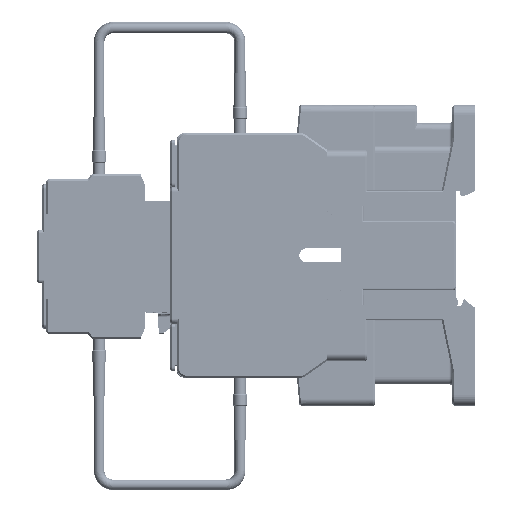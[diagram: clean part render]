
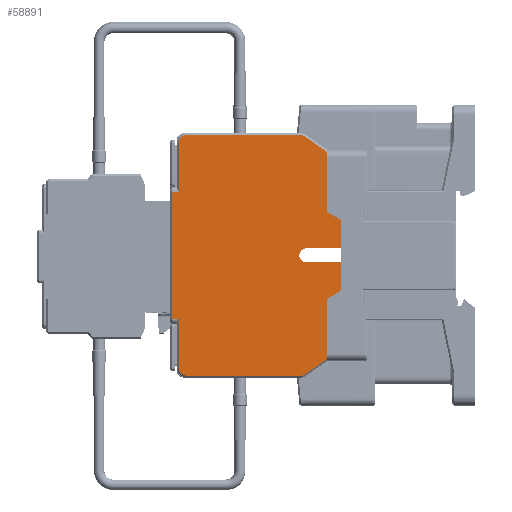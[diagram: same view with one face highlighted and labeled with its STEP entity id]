
A CAD part, left-side view. The second image highlights one B-rep face of the part: STEP entity #58891.
In plain terms, the highlighted planar face has unit normal (-1, 0, 0).
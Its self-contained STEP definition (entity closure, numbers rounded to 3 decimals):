
#402=DIRECTION('',(0.,1.,0.));
#403=VECTOR('',#402,10.);
#404=CARTESIAN_POINT('',(-28.,-26.6,-2.));
#405=LINE('',#404,#403);
#802=DIRECTION('',(0.,0.,1.));
#803=VECTOR('',#802,16.778);
#804=CARTESIAN_POINT('',(-28.,-22.6,-29.69));
#805=LINE('',#804,#803);
#816=DIRECTION('',(0.,0.,1.));
#817=VECTOR('',#816,16.778);
#818=CARTESIAN_POINT('',(-28.,-22.6,12.912));
#819=LINE('',#818,#817);
#1183=CARTESIAN_POINT('',(-28.,-23.4,-12.912));
#1184=DIRECTION('',(1.,0.,0.));
#1185=DIRECTION('',(0.,1.,0.));
#1186=AXIS2_PLACEMENT_3D('',#1183,#1184,#1185);
#1199=DIRECTION('',(0.,0.,1.));
#1200=VECTOR('',#1199,36.4);
#1201=CARTESIAN_POINT('',(-28.,22.1,-18.2));
#1202=LINE('',#1201,#1200);
#1206=DIRECTION('',(0.,0.,1.));
#1207=VECTOR('',#1206,13.902);
#1208=CARTESIAN_POINT('',(-28.,20.1,18.2));
#1209=LINE('',#1208,#1207);
#1213=CARTESIAN_POINT('',(-28.,17.6,32.1));
#1214=DIRECTION('',(1.,0.,0.));
#1215=DIRECTION('',(0.,1.,0.001));
#1216=AXIS2_PLACEMENT_3D('',#1213,#1214,#1215);
#1221=DIRECTION('',(0.,-1.,0.));
#1222=VECTOR('',#1221,32.714);
#1223=CARTESIAN_POINT('',(-28.,17.6,34.6));
#1224=LINE('',#1223,#1222);
#1228=CARTESIAN_POINT('',(-28.,-15.114,33.1));
#1229=DIRECTION('',(1.,0.,0.));
#1230=DIRECTION('',(0.,0.,1.));
#1231=AXIS2_PLACEMENT_3D('',#1228,#1229,#1230);
#1236=DIRECTION('',(0.,-0.819,-0.574));
#1237=VECTOR('',#1236,8.088);
#1238=CARTESIAN_POINT('',(-28.,-15.975,34.329));
#1239=LINE('',#1238,#1237);
#1243=DIRECTION('',(0.,0.866,0.5));
#1244=VECTOR('',#1243,3.465);
#1245=CARTESIAN_POINT('',(-28.,-26.,10.486));
#1246=LINE('',#1245,#1244);
#1250=CARTESIAN_POINT('',(-28.,-25.4,9.447));
#1251=DIRECTION('',(-1.,0.,0.));
#1252=DIRECTION('',(0.,-1.,0.));
#1253=AXIS2_PLACEMENT_3D('',#1250,#1251,#1252);
#1258=DIRECTION('',(0.,0.,1.));
#1259=VECTOR('',#1258,7.447);
#1260=CARTESIAN_POINT('',(-28.,-26.6,2.));
#1261=LINE('',#1260,#1259);
#1265=CARTESIAN_POINT('',(-28.,-16.6,0.));
#1266=DIRECTION('',(-1.,0.,0.));
#1267=DIRECTION('',(0.,0.,1.));
#1268=AXIS2_PLACEMENT_3D('',#1265,#1266,#1267);
#1273=DIRECTION('',(0.,0.,1.));
#1274=VECTOR('',#1273,7.447);
#1275=CARTESIAN_POINT('',(-28.,-26.6,-9.447));
#1276=LINE('',#1275,#1274);
#1280=CARTESIAN_POINT('',(-28.,-25.4,-9.447));
#1281=DIRECTION('',(-1.,0.,0.));
#1282=DIRECTION('',(0.,-0.5,-0.866));
#1283=AXIS2_PLACEMENT_3D('',#1280,#1281,#1282);
#1288=DIRECTION('',(0.,-0.866,0.5));
#1289=VECTOR('',#1288,3.465);
#1290=CARTESIAN_POINT('',(-28.,-23.,-12.219));
#1291=LINE('',#1290,#1289);
#1295=DIRECTION('',(0.,0.819,-0.574));
#1296=VECTOR('',#1295,8.088);
#1297=CARTESIAN_POINT('',(-28.,-22.6,-29.69));
#1298=LINE('',#1297,#1296);
#1302=CARTESIAN_POINT('',(-28.,-15.114,-33.1));
#1303=DIRECTION('',(1.,0.,0.));
#1304=DIRECTION('',(0.,-0.574,-0.819));
#1305=AXIS2_PLACEMENT_3D('',#1302,#1303,#1304);
#1310=DIRECTION('',(0.,1.,0.));
#1311=VECTOR('',#1310,32.714);
#1312=CARTESIAN_POINT('',(-28.,-15.114,-34.6));
#1313=LINE('',#1312,#1311);
#1317=CARTESIAN_POINT('',(-28.,17.6,-32.1));
#1318=DIRECTION('',(1.,0.,0.));
#1319=DIRECTION('',(0.,0.,-1.));
#1320=AXIS2_PLACEMENT_3D('',#1317,#1318,#1319);
#1325=DIRECTION('',(0.,0.,1.));
#1326=VECTOR('',#1325,13.902);
#1327=CARTESIAN_POINT('',(-28.,20.1,
-32.102));
#1328=LINE('',#1327,#1326);
#25881=DIRECTION('',(0.,-1.,0.));
#25882=VECTOR('',#25881,10.);
#25883=CARTESIAN_POINT('',(-28.,-16.6,2.));
#25884=LINE('',#25883,#25882);
#29059=CARTESIAN_POINT('',(-28.,20.1,
32.102));
#29069=CARTESIAN_POINT('',(-28.,20.1,18.2));
#29112=DIRECTION('',(0.,1.,0.));
#29113=VECTOR('',#29112,2.);
#29114=CARTESIAN_POINT('',(-28.,20.1,18.2));
#29115=LINE('',#29114,#29113);
#29176=DIRECTION('',(0.,-1.,0.));
#29177=VECTOR('',#29176,2.);
#29178=CARTESIAN_POINT('',(-28.,22.1,-18.2));
#29179=LINE('',#29178,#29177);
#29220=CARTESIAN_POINT('',(-28.,20.1,-18.2));
#43455=CARTESIAN_POINT('',(-28.,-23.4,12.912));
#43456=DIRECTION('',(1.,0.,0.));
#43457=DIRECTION('',(0.,0.5,-0.866));
#43458=AXIS2_PLACEMENT_3D('',#43455,#43456,#43457);
#50422=CARTESIAN_POINT('',(-28.,-16.6,2.));
#50423=CARTESIAN_POINT('',(-28.,-16.6,-2.));
#50424=VERTEX_POINT('',#50422);
#50425=VERTEX_POINT('',#50423);
#50438=CARTESIAN_POINT('',(-28.,-26.6,2.));
#50440=VERTEX_POINT('',#50438);
#50442=CARTESIAN_POINT('',(-28.,-26.6,-2.));
#50444=VERTEX_POINT('',#50442);
#53923=VERTEX_POINT('',#29220);
#53924=VERTEX_POINT('',#29069);
#54825=CARTESIAN_POINT('',(-28.,-22.6,29.69));
#54827=VERTEX_POINT('',#54825);
#54828=CARTESIAN_POINT('',(-28.,-15.975,34.329));
#54829=VERTEX_POINT('',#54828);
#54834=CARTESIAN_POINT('',(-28.,-15.114,34.6));
#54835=VERTEX_POINT('',#54834);
#54838=CARTESIAN_POINT('',(-28.,17.6,
34.6));
#54839=VERTEX_POINT('',#54838);
#54840=CARTESIAN_POINT('',(-28.,-15.114,-34.6));
#54841=CARTESIAN_POINT('',(-28.,17.6,
-34.6));
#54842=VERTEX_POINT('',#54840);
#54843=VERTEX_POINT('',#54841);
#54850=CARTESIAN_POINT('',(-28.,-15.975,-34.329));
#54851=VERTEX_POINT('',#54850);
#54852=CARTESIAN_POINT('',(-28.,-22.6,-29.69));
#54854=VERTEX_POINT('',#54852);
#54864=VERTEX_POINT('',#29059);
#54867=CARTESIAN_POINT('',(-28.,20.1,
-32.102));
#54869=VERTEX_POINT('',#54867);
#56698=CARTESIAN_POINT('',(-28.,-26.6,9.447));
#56699=VERTEX_POINT('',#56698);
#56700=CARTESIAN_POINT('',(-28.,-26.,10.486));
#56701=VERTEX_POINT('',#56700);
#56706=CARTESIAN_POINT('',(-28.,-26.,-10.486));
#56707=VERTEX_POINT('',#56706);
#56708=CARTESIAN_POINT('',(-28.,-26.6,-9.447));
#56709=VERTEX_POINT('',#56708);
#56710=CARTESIAN_POINT('',(-28.,-22.6,-12.912));
#56712=VERTEX_POINT('',#56710);
#56714=CARTESIAN_POINT('',(-28.,-23.,-12.219));
#56716=VERTEX_POINT('',#56714);
#56719=CARTESIAN_POINT('',(-28.,-22.6,12.912));
#56721=VERTEX_POINT('',#56719);
#56723=CARTESIAN_POINT('',(-28.,-23.,12.219));
#56725=VERTEX_POINT('',#56723);
#57092=CARTESIAN_POINT('',(-28.,22.1,18.2));
#57094=VERTEX_POINT('',#57092);
#57122=CARTESIAN_POINT('',(-28.,22.1,-18.2));
#57123=VERTEX_POINT('',#57122);
#58836=CARTESIAN_POINT('',(-28.,-22.6,-43.25));
#58837=DIRECTION('',(-1.,0.,0.));
#58838=DIRECTION('',(0.,0.,1.));
#58839=AXIS2_PLACEMENT_3D('',#58836,#58837,#58838);
#58840=PLANE('',#58839);
#58842=ORIENTED_EDGE('',*,*,#58841,.T.);
#58844=ORIENTED_EDGE('',*,*,#58843,.F.);
#58846=ORIENTED_EDGE('',*,*,#58845,.T.);
#58848=ORIENTED_EDGE('',*,*,#58847,.T.);
#58850=ORIENTED_EDGE('',*,*,#58849,.T.);
#58852=ORIENTED_EDGE('',*,*,#58851,.T.);
#58854=ORIENTED_EDGE('',*,*,#58853,.T.);
#58855=ORIENTED_EDGE('',*,*,#58668,.F.);
#58857=ORIENTED_EDGE('',*,*,#58856,.F.);
#58859=ORIENTED_EDGE('',*,*,#58858,.F.);
#58861=ORIENTED_EDGE('',*,*,#58860,.F.);
#58863=ORIENTED_EDGE('',*,*,#58862,.F.);
#58865=ORIENTED_EDGE('',*,*,#58864,.F.);
#58867=ORIENTED_EDGE('',*,*,#58866,.T.);
#58868=ORIENTED_EDGE('',*,*,#58479,.F.);
#58870=ORIENTED_EDGE('',*,*,#58869,.F.);
#58872=ORIENTED_EDGE('',*,*,#58871,.F.);
#58874=ORIENTED_EDGE('',*,*,#58873,.F.);
#58875=ORIENTED_EDGE('',*,*,#58827,.F.);
#58876=ORIENTED_EDGE('',*,*,#58656,.F.);
#58878=ORIENTED_EDGE('',*,*,#58877,.T.);
#58880=ORIENTED_EDGE('',*,*,#58879,.T.);
#58882=ORIENTED_EDGE('',*,*,#58881,.T.);
#58884=ORIENTED_EDGE('',*,*,#58883,.T.);
#58886=ORIENTED_EDGE('',*,*,#58885,.T.);
#58888=ORIENTED_EDGE('',*,*,#58887,.F.);
#58889=EDGE_LOOP('',(#58842,#58844,#58846,#58848,#58850,#58852,#58854,#58855,
#58857,#58859,#58861,#58863,#58865,#58867,#58868,#58870,#58872,#58874,#58875,
#58876,#58878,#58880,#58882,#58884,#58886,#58888));
#58890=FACE_OUTER_BOUND('',#58889,.F.);
#58891=ADVANCED_FACE('',(#58890),#58840,.T.);
#1187=CIRCLE('',#1186,0.8);
#1217=CIRCLE('',#1216,2.5);
#1232=CIRCLE('',#1231,1.5);
#1254=CIRCLE('',#1253,1.2);
#1269=CIRCLE('',#1268,2.);
#1284=CIRCLE('',#1283,1.2);
#1306=CIRCLE('',#1305,1.5);
#1321=CIRCLE('',#1320,2.5);
#43459=CIRCLE('',#43458,0.8);
#58479=EDGE_CURVE('',#50444,#50425,#405,.T.);
#58656=EDGE_CURVE('',#54854,#56712,#805,.T.);
#58668=EDGE_CURVE('',#56721,#54827,#819,.T.);
#58827=EDGE_CURVE('',#56712,#56716,#1187,.T.);
#58841=EDGE_CURVE('',#57123,#57094,#1202,.T.);
#58843=EDGE_CURVE('',#53924,#57094,#29115,.T.);
#58845=EDGE_CURVE('',#53924,#54864,#1209,.T.);
#58847=EDGE_CURVE('',#54864,#54839,#1217,.T.);
#58849=EDGE_CURVE('',#54839,#54835,#1224,.T.);
#58851=EDGE_CURVE('',#54835,#54829,#1232,.T.);
#58853=EDGE_CURVE('',#54829,#54827,#1239,.T.);
#58856=EDGE_CURVE('',#56725,#56721,#43459,.T.);
#58858=EDGE_CURVE('',#56701,#56725,#1246,.T.);
#58860=EDGE_CURVE('',#56699,#56701,#1254,.T.);
#58862=EDGE_CURVE('',#50440,#56699,#1261,.T.);
#58864=EDGE_CURVE('',#50424,#50440,#25884,.T.);
#58866=EDGE_CURVE('',#50424,#50425,#1269,.T.);
#58869=EDGE_CURVE('',#56709,#50444,#1276,.T.);
#58871=EDGE_CURVE('',#56707,#56709,#1284,.T.);
#58873=EDGE_CURVE('',#56716,#56707,#1291,.T.);
#58877=EDGE_CURVE('',#54854,#54851,#1298,.T.);
#58879=EDGE_CURVE('',#54851,#54842,#1306,.T.);
#58881=EDGE_CURVE('',#54842,#54843,#1313,.T.);
#58883=EDGE_CURVE('',#54843,#54869,#1321,.T.);
#58885=EDGE_CURVE('',#54869,#53923,#1328,.T.);
#58887=EDGE_CURVE('',#57123,#53923,#29179,.T.);
